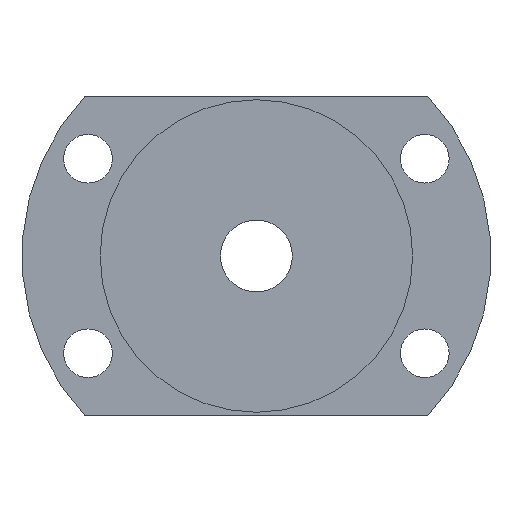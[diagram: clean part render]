
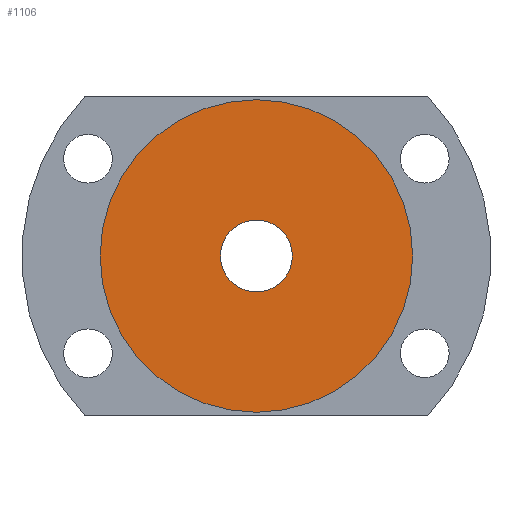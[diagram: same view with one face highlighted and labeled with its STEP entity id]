
A CAD part, left-side view. The second image highlights one B-rep face of the part: STEP entity #1106.
In plain terms, the highlighted planar face has unit normal (-1, 0, 0).
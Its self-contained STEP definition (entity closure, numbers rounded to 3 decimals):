
#3 = CARTESIAN_POINT ( 'NONE',  ( 0., 0., 45. ) ) ;
#20 = ORIENTED_EDGE ( 'NONE', *, *, #568, .T. ) ;
#34 = DIRECTION ( 'NONE',  ( 0., 0., -1. ) ) ;
#48 = CIRCLE ( 'NONE', #918, 45. ) ;
#88 = DIRECTION ( 'NONE',  ( 0., 0., 1. ) ) ;
#95 = AXIS2_PLACEMENT_3D ( 'NONE', #115, #292, #540 ) ;
#115 = CARTESIAN_POINT ( 'NONE',  ( 0., 0., 0. ) ) ;
#170 = VERTEX_POINT ( 'NONE', #1013 ) ;
#188 = CARTESIAN_POINT ( 'NONE',  ( 0., 0., 0. ) ) ;
#195 = DIRECTION ( 'NONE',  ( -1., 0., 0. ) ) ;
#270 = EDGE_LOOP ( 'NONE', ( #869, #20 ) ) ;
#284 = DIRECTION ( 'NONE',  ( 0., 0., -1. ) ) ;
#292 = DIRECTION ( 'NONE',  ( 1., 0., 0. ) ) ;
#315 = CIRCLE ( 'NONE', #938, 10.35 ) ;
#386 = EDGE_CURVE ( 'NONE', #941, #170, #689, .T. ) ;
#443 = AXIS2_PLACEMENT_3D ( 'NONE', #872, #676, #284 ) ;
#531 = ORIENTED_EDGE ( 'NONE', *, *, #718, .T. ) ;
#540 = DIRECTION ( 'NONE',  ( 0., 0., -1. ) ) ;
#545 = VERTEX_POINT ( 'NONE', #899 ) ;
#547 = AXIS2_PLACEMENT_3D ( 'NONE', #188, #195, #88 ) ;
#551 = DIRECTION ( 'NONE',  ( 0., 0., 1. ) ) ;
#568 = EDGE_CURVE ( 'NONE', #170, #941, #315, .T. ) ;
#610 = FACE_OUTER_BOUND ( 'NONE', #915, .T. ) ;
#633 = CIRCLE ( 'NONE', #547, 45. ) ;
#676 = DIRECTION ( 'NONE',  ( 1., 0., 0. ) ) ;
#689 = CIRCLE ( 'NONE', #443, 10.35 ) ;
#718 = EDGE_CURVE ( 'NONE', #545, #769, #48, .T. ) ;
#760 = PLANE ( 'NONE',  #95 ) ;
#769 = VERTEX_POINT ( 'NONE', #3 ) ;
#785 = DIRECTION ( 'NONE',  ( 1., 0., 0. ) ) ;
#848 = CARTESIAN_POINT ( 'NONE',  ( 0., 0., 10.35 ) ) ;
#869 = ORIENTED_EDGE ( 'NONE', *, *, #386, .T. ) ;
#872 = CARTESIAN_POINT ( 'NONE',  ( 0., 0., 0. ) ) ;
#899 = CARTESIAN_POINT ( 'NONE',  ( 0., 0., -45. ) ) ;
#915 = EDGE_LOOP ( 'NONE', ( #1029, #531 ) ) ;
#918 = AXIS2_PLACEMENT_3D ( 'NONE', #975, #1067, #551 ) ;
#938 = AXIS2_PLACEMENT_3D ( 'NONE', #1057, #785, #34 ) ;
#941 = VERTEX_POINT ( 'NONE', #848 ) ;
#975 = CARTESIAN_POINT ( 'NONE',  ( 0., 0., 0. ) ) ;
#1013 = CARTESIAN_POINT ( 'NONE',  ( 0., 0., -10.35 ) ) ;
#1029 = ORIENTED_EDGE ( 'NONE', *, *, #1073, .T. ) ;
#1057 = CARTESIAN_POINT ( 'NONE',  ( 0., 0., 0. ) ) ;
#1067 = DIRECTION ( 'NONE',  ( -1., 0., 0. ) ) ;
#1073 = EDGE_CURVE ( 'NONE', #769, #545, #633, .T. ) ;
#1106 = ADVANCED_FACE ( 'NONE', ( #1107, #610 ), #760, .F. ) ;
#1107 = FACE_BOUND ( 'NONE', #270, .T. ) ;
